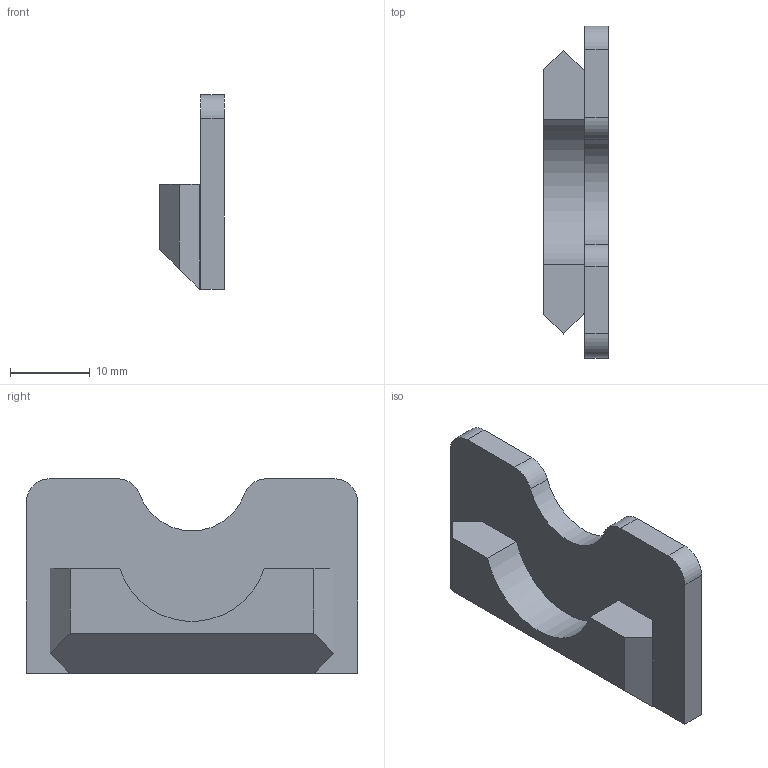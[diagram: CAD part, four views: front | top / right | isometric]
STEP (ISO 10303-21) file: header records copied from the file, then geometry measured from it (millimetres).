
FILE_DESCRIPTION(/* description */ ('','CAx-IF Rec.Pracs.---Representation and Presentation of Product Manufacturing Information (PMI)---4.0---2014-10-13'),/* implementation_level */ '2;1');
FILE_NAME(/* name */ 'Goews 1x Hanging Plate Blank.step',/* time_stamp */ '2024-11-28T14:33:29-05:00',/* author */ (''),/* organization */ (''),/* preprocessor_version */ 'ST-DEVELOPER v20',/* originating_system */ 'Autodesk Translation Framework v13.20.0.188',/* authorisation */ '');
FILE_SCHEMA (('AP242_MANAGED_MODEL_BASED_3D_ENGINEERING_MIM_LF { 1 0 10303 442 1 1 4 }'));
Length unit declared in the file: millimetre
Products named in the file (1): Goews 1x Hanging Plate Blank
Bounding box: 8.15 x 41.6 x 24.39 mm (x, y, z)
Volume: 4182.3 mm3; surface area: 2722.3 mm2
Topology: 1 solids, 1 shells, 24 faces, 61 edges, 40 vertices
Faces by surface type: plane 18, cylinder 6
Entity records: 754 total; most frequent: CARTESIAN_POINT 126, DIRECTION 123, ORIENTED_EDGE 122, EDGE_CURVE 61, LINE 49, VECTOR 49, VERTEX_POINT 40, AXIS2_PLACEMENT_3D 37
